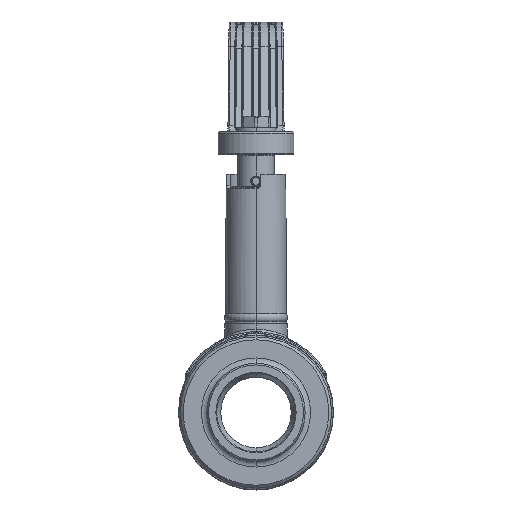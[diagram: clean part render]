
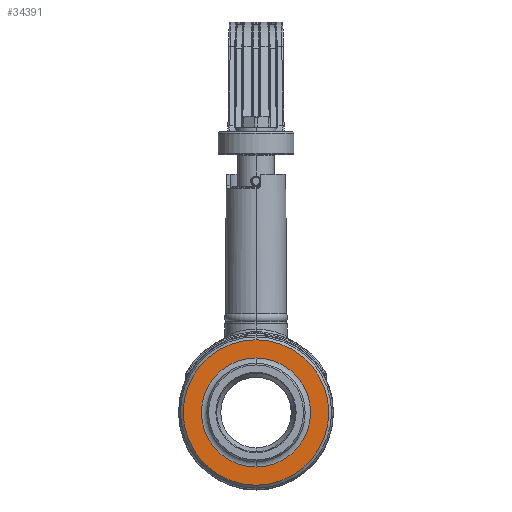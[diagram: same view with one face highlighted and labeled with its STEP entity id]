
A CAD part, left-side view. The second image highlights one B-rep face of the part: STEP entity #34391.
In plain terms, the highlighted planar face has unit normal (-1, 0, 0).
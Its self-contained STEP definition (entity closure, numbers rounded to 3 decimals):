
#11136=CARTESIAN_POINT('',(-39.,0.,0.));
#11137=DIRECTION('',(1.,0.,0.));
#11138=DIRECTION('',(0.,0.,1.));
#11139=AXIS2_PLACEMENT_3D('',#11136,#11137,#11138);
#11151=CARTESIAN_POINT('',(-39.,0.,0.));
#11152=DIRECTION('',(-1.,0.,0.));
#11153=DIRECTION('',(0.,0.,1.));
#11154=AXIS2_PLACEMENT_3D('',#11151,#11152,#11153);
#11156=CARTESIAN_POINT('',(-39.,0.,0.));
#11157=DIRECTION('',(1.,0.,0.));
#11158=DIRECTION('',(0.,0.,1.));
#11159=AXIS2_PLACEMENT_3D('',#11156,#11157,#11158);
#11161=CARTESIAN_POINT('',(-39.,0.,0.));
#11162=DIRECTION('',(-1.,0.,0.));
#11163=DIRECTION('',(0.,0.,1.));
#11164=AXIS2_PLACEMENT_3D('',#11161,#11162,#11163);
#13899=CARTESIAN_POINT('',(-39.,0.,19.35));
#13901=VERTEX_POINT('',#13899);
#13903=CARTESIAN_POINT('',(-39.,0.,-19.35));
#13905=VERTEX_POINT('',#13903);
#13931=CARTESIAN_POINT('',(-39.,0.,25.8));
#13932=CARTESIAN_POINT('',(-39.,0.,-25.8));
#13933=VERTEX_POINT('',#13931);
#13934=VERTEX_POINT('',#13932);
#34376=CARTESIAN_POINT('',(-39.,0.,0.));
#34377=DIRECTION('',(1.,0.,0.));
#34378=DIRECTION('',(0.,0.,1.));
#34379=AXIS2_PLACEMENT_3D('',#34376,#34377,#34378);
#34380=PLANE('',#34379);
#34382=ORIENTED_EDGE('',*,*,#34381,.T.);
#34384=ORIENTED_EDGE('',*,*,#34383,.F.);
#34385=EDGE_LOOP('',(#34382,#34384));
#34386=FACE_OUTER_BOUND('',#34385,.F.);
#34387=ORIENTED_EDGE('',*,*,#34371,.T.);
#34388=ORIENTED_EDGE('',*,*,#34355,.F.);
#34389=EDGE_LOOP('',(#34387,#34388));
#34390=FACE_BOUND('',#34389,.F.);
#11140=CIRCLE('',#11139,19.35);
#11155=CIRCLE('',#11154,19.35);
#11160=CIRCLE('',#11159,25.8);
#11165=CIRCLE('',#11164,25.8);
#34355=EDGE_CURVE('',#13901,#13905,#11140,.T.);
#34371=EDGE_CURVE('',#13901,#13905,#11155,.T.);
#34381=EDGE_CURVE('',#13933,#13934,#11160,.T.);
#34383=EDGE_CURVE('',#13933,#13934,#11165,.T.);
#34391=ADVANCED_FACE('',(#34386,#34390),#34380,.F.);
